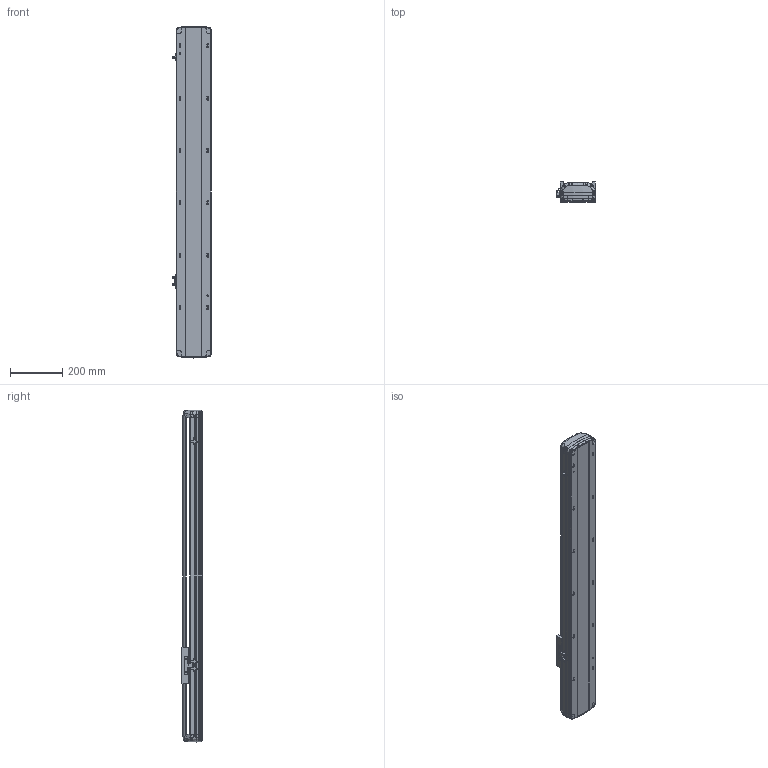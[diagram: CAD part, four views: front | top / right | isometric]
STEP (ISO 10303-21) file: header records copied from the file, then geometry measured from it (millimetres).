
FILE_DESCRIPTION (( 'STEP AP214' ), '1' );
FILE_NAME ('RTH14-XX-850-B-M20B-C4.STEP', '2025-10-24T08:40:00', ( 'Microsoft' ), ( 'Microsoft' ), 'SwSTEP 2.0', 'SolidWorks 2018', '' );
FILE_SCHEMA (( 'AUTOMOTIVE_DESIGN' ));
Length unit declared in the file: millimetre
Products named in the file (7): N_RTH14-R-004-SFSR16賑釱^RTH14-XX-XX-B-M20B-C4; N_RTH13-L-012感应片（外置）^RTH14-XX-XX-B-M20B-C4; N_RTH14-B-007B奻裔^RTH14-XX-XX-B-M20B-C4; N_RTH14-B-011PB菁釱^RTH14-XX-XX-B-M20B-C4; RTH14-XX-850-B-M20B-C4; N_RTH14-GY-001P^RTH14-XX-XX-B-M20B-C4; N_OMRON EE-SX672 传感器^RTH14-XX-XX-B-M20B-C4
Assembly tree (9 placements, depth 2):
  RTH14-XX-850-B-M20B-C4
    N_RTH14-B-011PB菁釱^RTH14-XX-XX-B-M20B-C4
    N_RTH14-B-007B奻裔^RTH14-XX-XX-B-M20B-C4
    N_RTH13-L-012感应片（外置）^RTH14-XX-XX-B-M20B-C4
    N_OMRON EE-SX672 传感器^RTH14-XX-XX-B-M20B-C4  x3
    N_RTH14-R-004-SFSR16賑釱^RTH14-XX-XX-B-M20B-C4
    N_RTH14-GY-001P^RTH14-XX-XX-B-M20B-C4  x2
Bounding box: 148.5 x 78.03 x 1268.99 mm (x, y, z)
Volume: 5141832.1 mm3; surface area: 1179681.5 mm2
Topology: 9 solids, 9 shells, 1936 faces, 5458 edges, 3554 vertices
Faces by surface type: plane 983, bspline 450, cylinder 439, cone 56, torus 8
Entity records: 47302 total; most frequent: CARTESIAN_POINT 21030, ORIENTED_EDGE 5932, DIRECTION 4389, EDGE_CURVE 2966, VERTEX_POINT 1940, LINE 1661, VECTOR 1661, AXIS2_PLACEMENT_3D 1364
